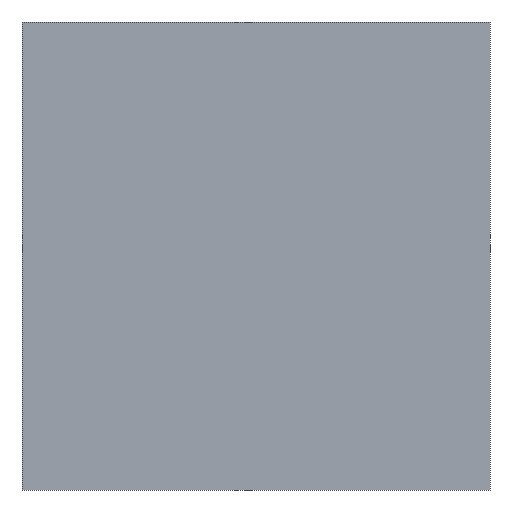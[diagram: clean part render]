
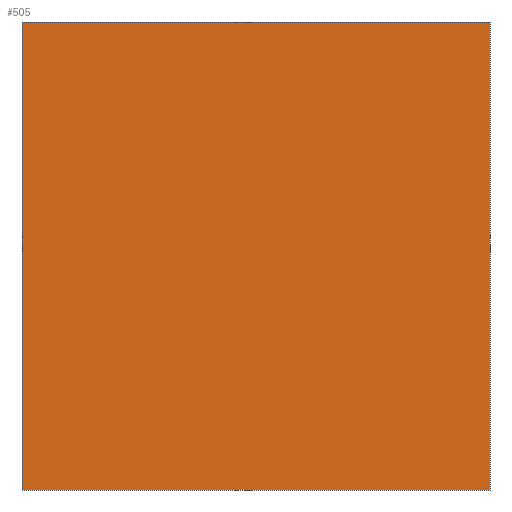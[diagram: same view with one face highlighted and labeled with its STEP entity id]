
A CAD part, front view. The second image highlights one B-rep face of the part: STEP entity #505.
In plain terms, the highlighted planar face has unit normal (0, -1, 0).
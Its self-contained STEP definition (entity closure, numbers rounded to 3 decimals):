
#21 = EDGE_CURVE ( 'NONE', #553, #656, #289, .T. ) ;
#86 = DIRECTION ( 'NONE',  ( 0., 0., 1. ) ) ;
#107 = CARTESIAN_POINT ( 'NONE',  ( 55., 68., 55. ) ) ;
#124 = FACE_OUTER_BOUND ( 'NONE', #675, .T. ) ;
#127 = VERTEX_POINT ( 'NONE', #107 ) ;
#136 = EDGE_CURVE ( 'NONE', #656, #1325, #811, .T. ) ;
#263 = DIRECTION ( 'NONE',  ( 1., 0., 0. ) ) ;
#289 = LINE ( 'NONE', #1218, #488 ) ;
#332 = LINE ( 'NONE', #441, #672 ) ;
#418 = DIRECTION ( 'NONE',  ( 1., 0., 0. ) ) ;
#441 = CARTESIAN_POINT ( 'NONE',  ( 55., 68., -55. ) ) ;
#468 = VECTOR ( 'NONE', #86, 1000. ) ;
#488 = VECTOR ( 'NONE', #1231, 1000. ) ;
#505 = ADVANCED_FACE ( 'NONE', ( #124 ), #1372, .T. ) ;
#519 = CARTESIAN_POINT ( 'NONE',  ( -55., 68., -55. ) ) ;
#521 = CARTESIAN_POINT ( 'NONE',  ( -55., 68., 55. ) ) ;
#541 = DIRECTION ( 'NONE',  ( 0., 0., -1. ) ) ;
#553 = VERTEX_POINT ( 'NONE', #769 ) ;
#631 = EDGE_CURVE ( 'NONE', #1325, #127, #1298, .T. ) ;
#634 = CARTESIAN_POINT ( 'NONE',  ( -55., 68., 55. ) ) ;
#656 = VERTEX_POINT ( 'NONE', #895 ) ;
#672 = VECTOR ( 'NONE', #541, 1000. ) ;
#675 = EDGE_LOOP ( 'NONE', ( #800, #717, #977, #1035 ) ) ;
#682 = CARTESIAN_POINT ( 'NONE',  ( 55., 68., 55. ) ) ;
#710 = VECTOR ( 'NONE', #263, 1000. ) ;
#717 = ORIENTED_EDGE ( 'NONE', *, *, #136, .F. ) ;
#769 = CARTESIAN_POINT ( 'NONE',  ( 55., 68., -55. ) ) ;
#800 = ORIENTED_EDGE ( 'NONE', *, *, #631, .F. ) ;
#811 = LINE ( 'NONE', #634, #468 ) ;
#895 = CARTESIAN_POINT ( 'NONE',  ( -55., 68., -55. ) ) ;
#977 = ORIENTED_EDGE ( 'NONE', *, *, #21, .F. ) ;
#1016 = EDGE_CURVE ( 'NONE', #127, #553, #332, .T. ) ;
#1035 = ORIENTED_EDGE ( 'NONE', *, *, #1016, .F. ) ;
#1218 = CARTESIAN_POINT ( 'NONE',  ( -55., 68., -55. ) ) ;
#1231 = DIRECTION ( 'NONE',  ( -1., 0., 0. ) ) ;
#1241 = AXIS2_PLACEMENT_3D ( 'NONE', #519, #1256, #418 ) ;
#1256 = DIRECTION ( 'NONE',  ( 0., -1., 0. ) ) ;
#1298 = LINE ( 'NONE', #682, #710 ) ;
#1325 = VERTEX_POINT ( 'NONE', #521 ) ;
#1372 = PLANE ( 'NONE',  #1241 ) ;
